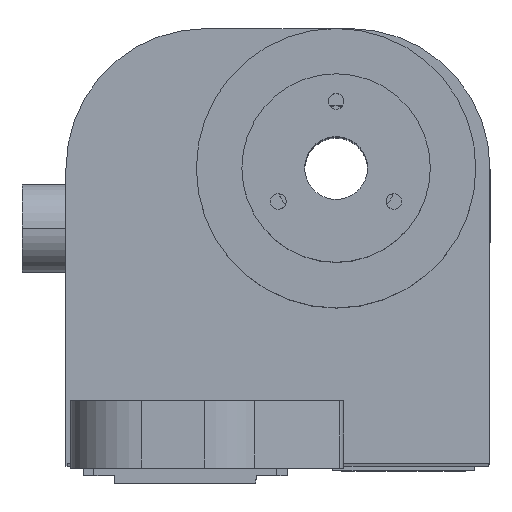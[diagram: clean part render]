
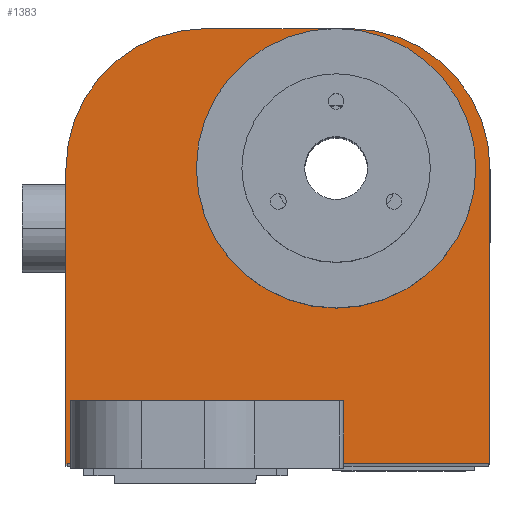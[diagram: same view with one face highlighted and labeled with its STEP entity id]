
A CAD part, top view. The second image highlights one B-rep face of the part: STEP entity #1383.
In plain terms, the highlighted planar face has unit normal (0, 0, 1).
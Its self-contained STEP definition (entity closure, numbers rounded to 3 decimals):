
#31 = VERTEX_POINT ( 'NONE', #1929 ) ;
#111 = VERTEX_POINT ( 'NONE', #2044 ) ;
#113 = VERTEX_POINT ( 'NONE', #2100 ) ;
#152 = VERTEX_POINT ( 'NONE', #2162 ) ;
#154 = EDGE_CURVE ( 'NONE', #152, #155, #2161, .T. ) ;
#155 = VERTEX_POINT ( 'NONE', #2156 ) ;
#192 = EDGE_CURVE ( 'NONE', #113, #111, #2229, .T. ) ;
#470 = VERTEX_POINT ( 'NONE', #2645 ) ;
#472 = EDGE_CURVE ( 'NONE', #470, #473, #2644, .T. ) ;
#473 = VERTEX_POINT ( 'NONE', #2640 ) ;
#499 = VERTEX_POINT ( 'NONE', #2664 ) ;
#501 = EDGE_CURVE ( 'NONE', #470, #499, #2663, .T. ) ;
#1280 = EDGE_CURVE ( 'NONE', #1282, #1350, #4025, .T. ) ;
#1282 = VERTEX_POINT ( 'NONE', #4021 ) ;
#1319 = ORIENTED_EDGE ( 'NONE', *, *, #472, .F. ) ;
#1320 = ORIENTED_EDGE ( 'NONE', *, *, #501, .T. ) ;
#1325 = ORIENTED_EDGE ( 'NONE', *, *, #5391, .T. ) ;
#1326 = ORIENTED_EDGE ( 'NONE', *, *, #1330, .F. ) ;
#1327 = ORIENTED_EDGE ( 'NONE', *, *, #1280, .T. ) ;
#1329 = EDGE_CURVE ( 'NONE', #31, #1382, #4084, .T. ) ;
#1330 = EDGE_CURVE ( 'NONE', #155, #152, #4080, .T. ) ;
#1350 = VERTEX_POINT ( 'NONE', #4118 ) ;
#1369 = EDGE_CURVE ( 'NONE', #473, #1382, #4160, .T. ) ;
#1370 = EDGE_CURVE ( 'NONE', #499, #1282, #4156, .T. ) ;
#1371 = ORIENTED_EDGE ( 'NONE', *, *, #1372, .T. ) ;
#1372 = EDGE_CURVE ( 'NONE', #1350, #113, #4152, .T. ) ;
#1373 = ORIENTED_EDGE ( 'NONE', *, *, #1374, .T. ) ;
#1374 = EDGE_CURVE ( 'NONE', #111, #5390, #4147, .T. ) ;
#1376 = ORIENTED_EDGE ( 'NONE', *, *, #1329, .T. ) ;
#1377 = ORIENTED_EDGE ( 'NONE', *, *, #1369, .F. ) ;
#1380 = ORIENTED_EDGE ( 'NONE', *, *, #154, .F. ) ;
#1381 = EDGE_LOOP ( 'NONE', ( #1327, #1371, #1389, #1373, #1325, #1376, #1377, #1319, #1320, #1385 ) ) ;
#1382 = VERTEX_POINT ( 'NONE', #4138 ) ;
#1383 = ADVANCED_FACE ( 'NONE', ( #4137, #4136 ), #4134, .F. ) ;
#1384 = EDGE_LOOP ( 'NONE', ( #1326, #1380 ) ) ;
#1385 = ORIENTED_EDGE ( 'NONE', *, *, #1370, .T. ) ;
#1389 = ORIENTED_EDGE ( 'NONE', *, *, #192, .T. ) ;
#1929 = CARTESIAN_POINT ( 'NONE',  ( -17.2, 0., 0. ) ) ;
#2044 = CARTESIAN_POINT ( 'NONE',  ( -8.3, 27.7, 0. ) ) ;
#2100 = CARTESIAN_POINT ( 'NONE',  ( 0.9, 27.7, 0. ) ) ;
#2156 = CARTESIAN_POINT ( 'NONE',  ( 7., 18.8, 0. ) ) ;
#2157 = DIRECTION ( 'NONE',  ( 1., 0., 0. ) ) ;
#2158 = DIRECTION ( 'NONE',  ( 0., 0., 1. ) ) ;
#2159 = CARTESIAN_POINT ( 'NONE',  ( 0., 18.8, 0. ) ) ;
#2160 = AXIS2_PLACEMENT_3D ( 'NONE', #2159, #2158, #2157 ) ;
#2161 = CIRCLE ( 'NONE', #2160, 7. ) ;
#2162 = CARTESIAN_POINT ( 'NONE',  ( -7., 18.8, 0. ) ) ;
#2226 = DIRECTION ( 'NONE',  ( -1., 0., 0. ) ) ;
#2227 = VECTOR ( 'NONE', #2226, 1000. ) ;
#2228 = CARTESIAN_POINT ( 'NONE',  ( -17.2, 27.7, 0. ) ) ;
#2229 = LINE ( 'NONE', #2228, #2227 ) ;
#2640 = CARTESIAN_POINT ( 'NONE',  ( -16.9, 4., 0. ) ) ;
#2641 = DIRECTION ( 'NONE',  ( -1., 0., 0. ) ) ;
#2642 = VECTOR ( 'NONE', #2641, 1000. ) ;
#2643 = CARTESIAN_POINT ( 'NONE',  ( -16.9, 4., 0. ) ) ;
#2644 = LINE ( 'NONE', #2643, #2642 ) ;
#2645 = CARTESIAN_POINT ( 'NONE',  ( 0.5, 4., 0. ) ) ;
#2660 = DIRECTION ( 'NONE',  ( 0., -1., 0. ) ) ;
#2661 = VECTOR ( 'NONE', #2660, 1000. ) ;
#2662 = CARTESIAN_POINT ( 'NONE',  ( 0.5, 4., 0. ) ) ;
#2663 = LINE ( 'NONE', #2662, #2661 ) ;
#2664 = CARTESIAN_POINT ( 'NONE',  ( 0.5, 0., 0. ) ) ;
#4021 = CARTESIAN_POINT ( 'NONE',  ( 9.8, 0., 0. ) ) ;
#4022 = DIRECTION ( 'NONE',  ( 0., 1., 0. ) ) ;
#4023 = VECTOR ( 'NONE', #4022, 1000. ) ;
#4024 = CARTESIAN_POINT ( 'NONE',  ( 9.8, 0., 0. ) ) ;
#4025 = LINE ( 'NONE', #4024, #4023 ) ;
#4076 = DIRECTION ( 'NONE',  ( 1., 0., 0. ) ) ;
#4077 = DIRECTION ( 'NONE',  ( 0., 0., 1. ) ) ;
#4078 = CARTESIAN_POINT ( 'NONE',  ( 0., 18.8, 0. ) ) ;
#4079 = AXIS2_PLACEMENT_3D ( 'NONE', #4078, #4077, #4076 ) ;
#4080 = CIRCLE ( 'NONE', #4079, 7. ) ;
#4081 = DIRECTION ( 'NONE',  ( 1., 0., 0. ) ) ;
#4082 = VECTOR ( 'NONE', #4081, 1000. ) ;
#4083 = CARTESIAN_POINT ( 'NONE',  ( -17.2, 0., 0. ) ) ;
#4084 = LINE ( 'NONE', #4083, #4082 ) ;
#4118 = CARTESIAN_POINT ( 'NONE',  ( 9.8, 18.8, 0. ) ) ;
#4130 = DIRECTION ( 'NONE',  ( -1., 0., 0. ) ) ;
#4131 = DIRECTION ( 'NONE',  ( 0., 0., -1. ) ) ;
#4132 = CARTESIAN_POINT ( 'NONE',  ( -17.2, 0., 0. ) ) ;
#4133 = AXIS2_PLACEMENT_3D ( 'NONE', #4132, #4131, #4130 ) ;
#4134 = PLANE ( 'NONE',  #4133 ) ;
#4136 = FACE_OUTER_BOUND ( 'NONE', #1381, .T. ) ;
#4137 = FACE_BOUND ( 'NONE', #1384, .T. ) ;
#4138 = CARTESIAN_POINT ( 'NONE',  ( -16.9, 0., 0. ) ) ;
#4143 = DIRECTION ( 'NONE',  ( -1., 0., 0. ) ) ;
#4144 = DIRECTION ( 'NONE',  ( 0., 0., 1. ) ) ;
#4145 = CARTESIAN_POINT ( 'NONE',  ( -8.3, 18.8, 0. ) ) ;
#4146 = AXIS2_PLACEMENT_3D ( 'NONE', #4145, #4144, #4143 ) ;
#4147 = CIRCLE ( 'NONE', #4146, 8.9 ) ;
#4148 = DIRECTION ( 'NONE',  ( -1., 0., 0. ) ) ;
#4149 = DIRECTION ( 'NONE',  ( 0., 0., 1. ) ) ;
#4150 = CARTESIAN_POINT ( 'NONE',  ( 0.9, 18.8, 0. ) ) ;
#4151 = AXIS2_PLACEMENT_3D ( 'NONE', #4150, #4149, #4148 ) ;
#4152 = CIRCLE ( 'NONE', #4151, 8.9 ) ;
#4153 = DIRECTION ( 'NONE',  ( 1., 0., 0. ) ) ;
#4154 = VECTOR ( 'NONE', #4153, 1000. ) ;
#4155 = CARTESIAN_POINT ( 'NONE',  ( -17.2, 0., 0. ) ) ;
#4156 = LINE ( 'NONE', #4155, #4154 ) ;
#4157 = DIRECTION ( 'NONE',  ( 0., -1., 0. ) ) ;
#4158 = VECTOR ( 'NONE', #4157, 1000. ) ;
#4159 = CARTESIAN_POINT ( 'NONE',  ( -16.9, 4., 0. ) ) ;
#4160 = LINE ( 'NONE', #4159, #4158 ) ;
#5002 = DIRECTION ( 'NONE',  ( 0., -1., 0. ) ) ;
#5003 = VECTOR ( 'NONE', #5002, 1000. ) ;
#5004 = CARTESIAN_POINT ( 'NONE',  ( -17.2, 0., 0. ) ) ;
#5005 = LINE ( 'NONE', #5004, #5003 ) ;
#5006 = CARTESIAN_POINT ( 'NONE',  ( -17.2, 18.8, 0. ) ) ;
#5390 = VERTEX_POINT ( 'NONE', #5006 ) ;
#5391 = EDGE_CURVE ( 'NONE', #5390, #31, #5005, .T. ) ;
